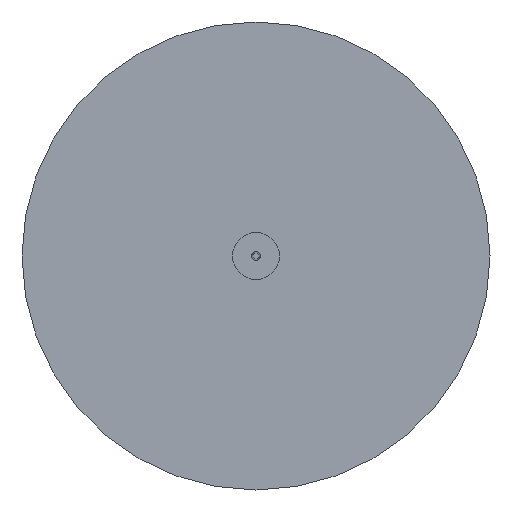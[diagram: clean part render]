
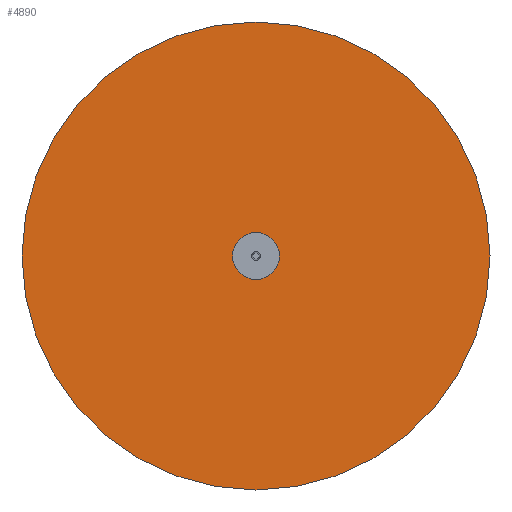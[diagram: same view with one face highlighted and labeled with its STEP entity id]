
A CAD part, front view. The second image highlights one B-rep face of the part: STEP entity #4890.
In plain terms, the highlighted planar face has unit normal (0, -1, 0).
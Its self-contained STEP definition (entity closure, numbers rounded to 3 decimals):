
#4610=CARTESIAN_POINT('',(70.,-28.5,0.0));
#4611=VERTEX_POINT('',#4610);
#4627=CARTESIAN_POINT('',(-70.,-28.5,0.));
#4628=VERTEX_POINT('',#4627);
#4635=CARTESIAN_POINT('',(0.0,-28.5,0.0));
#4636=DIRECTION('',(0.0,-1.0,0.0));
#4637=DIRECTION('',(1.0,0.0,0.0));
#4638=AXIS2_PLACEMENT_3D('',#4635,#4636,#4637);
#4639=CIRCLE('',#4638,70.);
#4640=EDGE_CURVE('',#4611,#4628,#4639,.T.);
#4702=CARTESIAN_POINT('',(7.,-28.5,0.0));
#4703=VERTEX_POINT('',#4702);
#4728=CARTESIAN_POINT('',(-7.,-28.5,0.));
#4729=VERTEX_POINT('',#4728);
#4736=CARTESIAN_POINT('',(0.0,-28.5,0.0));
#4737=DIRECTION('',(0.0,-1.0,0.0));
#4738=DIRECTION('',(1.0,0.0,0.0));
#4739=AXIS2_PLACEMENT_3D('',#4736,#4737,#4738);
#4740=CIRCLE('',#4739,7.);
#4741=EDGE_CURVE('',#4729,#4703,#4740,.T.);
#4820=CARTESIAN_POINT('',(0.0,-28.5,0.0));
#4821=DIRECTION('',(0.0,-1.0,0.0));
#4822=DIRECTION('',(1.0,0.0,0.0));
#4823=AXIS2_PLACEMENT_3D('',#4820,#4821,#4822);
#4824=CIRCLE('',#4823,7.);
#4825=EDGE_CURVE('',#4703,#4729,#4824,.T.);
#4859=CARTESIAN_POINT('',(0.0,-28.5,0.0));
#4860=DIRECTION('',(0.0,-1.0,0.0));
#4861=DIRECTION('',(1.0,0.0,0.0));
#4862=AXIS2_PLACEMENT_3D('',#4859,#4860,#4861);
#4863=CIRCLE('',#4862,70.);
#4864=EDGE_CURVE('',#4628,#4611,#4863,.T.);
#4877=CARTESIAN_POINT('',(38.5,-28.5,0.0));
#4878=DIRECTION('',(0.0,-1.0,0.0));
#4879=DIRECTION('',(0.0,0.0,-1.0));
#4880=AXIS2_PLACEMENT_3D('',#4877,#4878,#4879);
#4881=PLANE('',#4880);
#4882=ORIENTED_EDGE('',*,*,#4640,.T.);
#4883=ORIENTED_EDGE('',*,*,#4864,.T.);
#4884=EDGE_LOOP('',(#4882,#4883));
#4885=FACE_OUTER_BOUND('',#4884,.T.);
#4886=ORIENTED_EDGE('',*,*,#4825,.F.);
#4887=ORIENTED_EDGE('',*,*,#4741,.F.);
#4888=EDGE_LOOP('',(#4886,#4887));
#4889=FACE_BOUND('',#4888,.T.);
#4890=ADVANCED_FACE('',(#4885,#4889),#4881,.T.);
